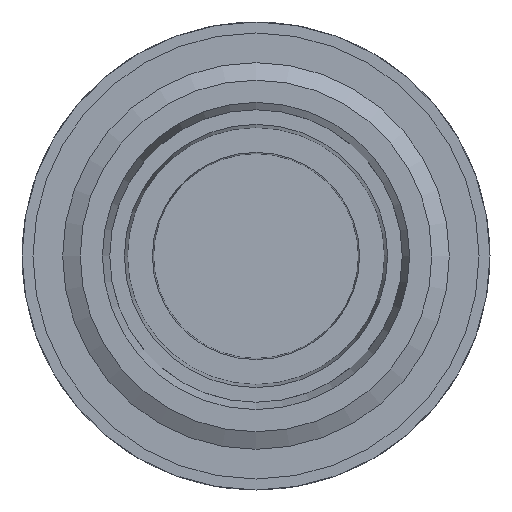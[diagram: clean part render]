
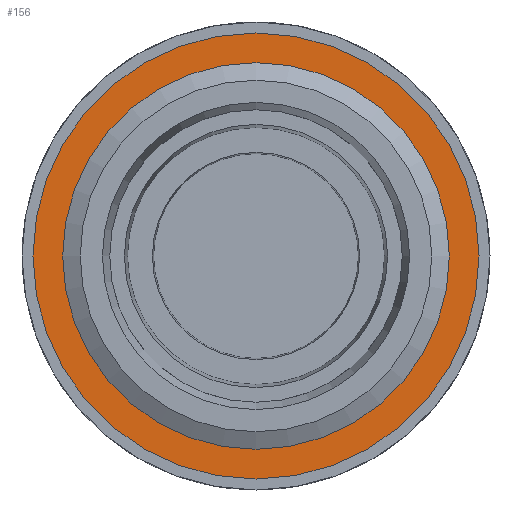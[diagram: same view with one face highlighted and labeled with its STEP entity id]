
A CAD part, left-side view. The second image highlights one B-rep face of the part: STEP entity #156.
In plain terms, the highlighted planar face has unit normal (-1, 0, 0).
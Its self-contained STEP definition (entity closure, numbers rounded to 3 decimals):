
#156 = ADVANCED_FACE( '', ( #405, #406 ), #407, .T. );
#405 = FACE_BOUND( '', #667, .T. );
#406 = FACE_OUTER_BOUND( '', #668, .T. );
#407 = PLANE( '', #669 );
#667 = EDGE_LOOP( '', ( #1314 ) );
#668 = EDGE_LOOP( '', ( #1315 ) );
#669 = AXIS2_PLACEMENT_3D( '', #1316, #1317, #1318 );
#1314 = ORIENTED_EDGE( '', *, *, #1555, .T. );
#1315 = ORIENTED_EDGE( '', *, *, #1613, .F. );
#1316 = CARTESIAN_POINT( '', ( 8.3, 15.25, 0. ) );
#1317 = DIRECTION( '', ( -1., 0., 0. ) );
#1318 = DIRECTION( '', ( 0., 0., 1. ) );
#1555 = EDGE_CURVE( '', #1903, #1903, #1904, .T. );
#1613 = EDGE_CURVE( '', #1992, #1992, #1993, .T. );
#1903 = VERTEX_POINT( '', #3530 );
#1904 = CIRCLE( '', #3531, 11.9 );
#1992 = VERTEX_POINT( '', #3984 );
#1993 = CIRCLE( '', #3985, 15.25 );
#3530 = CARTESIAN_POINT( '', ( 8.3, 0., -11.9 ) );
#3531 = AXIS2_PLACEMENT_3D( '', #4164, #4165, #4166 );
#3984 = CARTESIAN_POINT( '', ( 8.3, 0., -15.25 ) );
#3985 = AXIS2_PLACEMENT_3D( '', #4231, #4232, #4233 );
#4164 = CARTESIAN_POINT( '', ( 8.3, 0., 0. ) );
#4165 = DIRECTION( '', ( 1., 0., 0. ) );
#4166 = DIRECTION( '', ( 0., 0., -1. ) );
#4231 = CARTESIAN_POINT( '', ( 8.3, 0., 0. ) );
#4232 = DIRECTION( '', ( 1., 0., 0. ) );
#4233 = DIRECTION( '', ( 0., 0., -1. ) );
